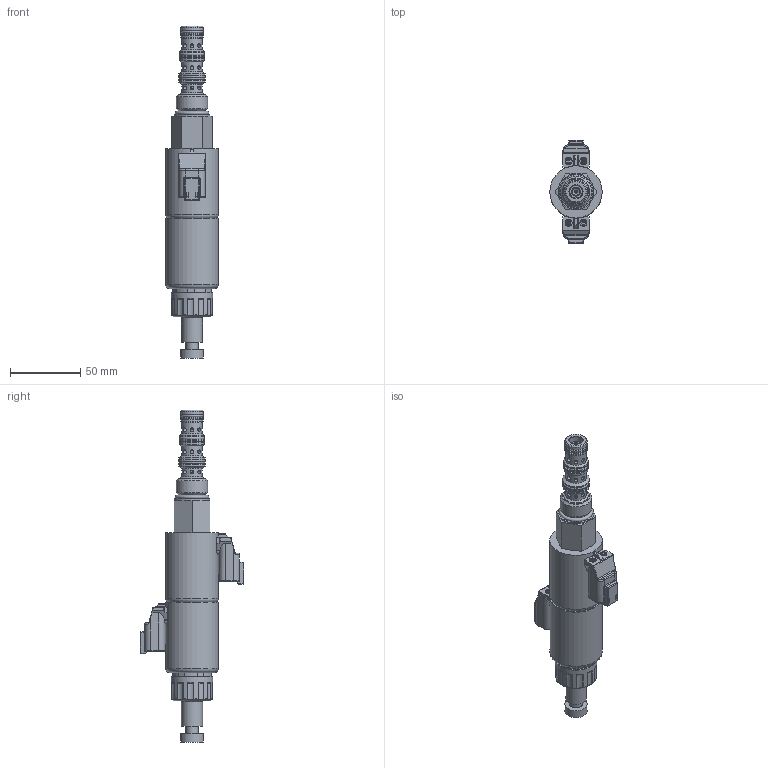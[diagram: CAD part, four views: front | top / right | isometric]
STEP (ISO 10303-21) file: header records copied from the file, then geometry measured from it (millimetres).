
FILE_DESCRIPTION(/* description */ (''),/* implementation_level */ '2;1');
FILE_NAME(/* name */ 'C:\Users\mcooper\OneDrive - Deltrol Corporation\Desktop\DFP_Docs\Deltrol\Catalog Pages - Proportional Valve Line\Website\DPV-100-34M\DPV-100-34M.stp',/* time_stamp */ '2026-01-29T09:05:24-05:00',/* author */ ('mcooper'),/* organization */ (''),/* preprocessor_version */ 'ST-DEVELOPER v18',/* originating_system */ 'Autodesk Inventor 2020',/* authorisation */ '');
FILE_SCHEMA (('AUTOMOTIVE_DESIGN { 1 0 10303 214 3 1 1 }'));
Products named in the file (1): Assembly3_Shrinkwrap_1
Bounding box: 37.1 x 73.4 x 235.55 mm (x, y, z)
Volume: 156791.5 mm3; surface area: 57396.6 mm2
Topology: 16 solids, 16 shells, 1255 faces, 3404 edges, 2253 vertices
Faces by surface type: plane 497, cylinder 470, bspline 122, torus 91, cone 57, sphere 18
Full cylindrical faces by diameter (mm): 0.135 x2, 0.166 x2, 0.381 x1, 1.016 x1, 1.57 x4, 1.651 x3, 1.994 x1, 2.045 x1, 2.692 x24, 2.705 x4, 2.73 x4, 2.915 x2, 3.429 x1, 3.886 x1, 4.724 x1, 5 x4, 5.334 x2, 7.442 x3, 8.433 x1, 8.89 x1, 9.323 x5, 9.337 x1, 10.49 x1, 11.252 x1, 12.446 x1, 12.903 x1, 13.056 x1, 13.157 x1, 13.97 x1, 14.275 x6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
Entity records: 52820 total; most frequent: CARTESIAN_POINT 19583, ORIENTED_EDGE 6800, DIRECTION 6576, EDGE_CURVE 3400, AXIS2_PLACEMENT_3D 2509, VERTEX_POINT 2253, LINE 1558, VECTOR 1558
